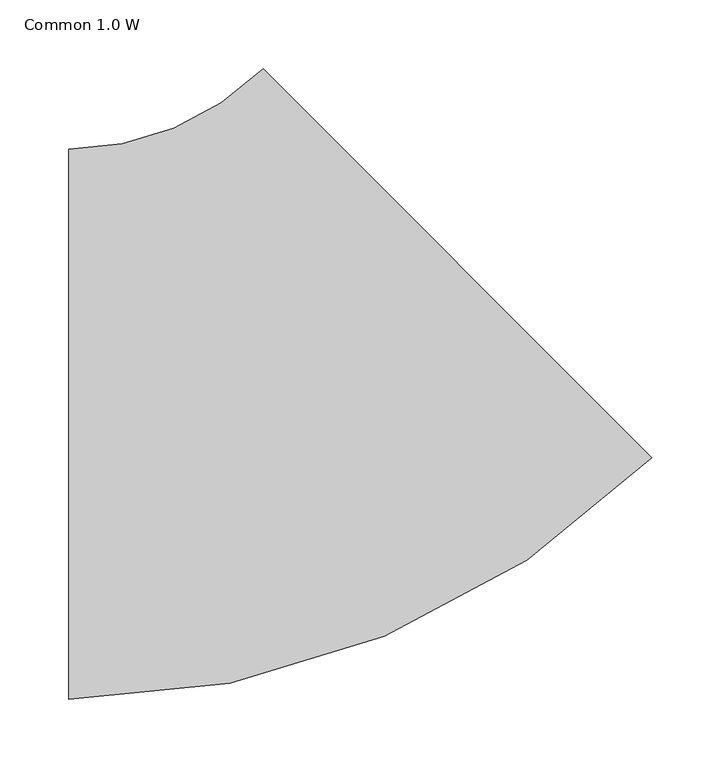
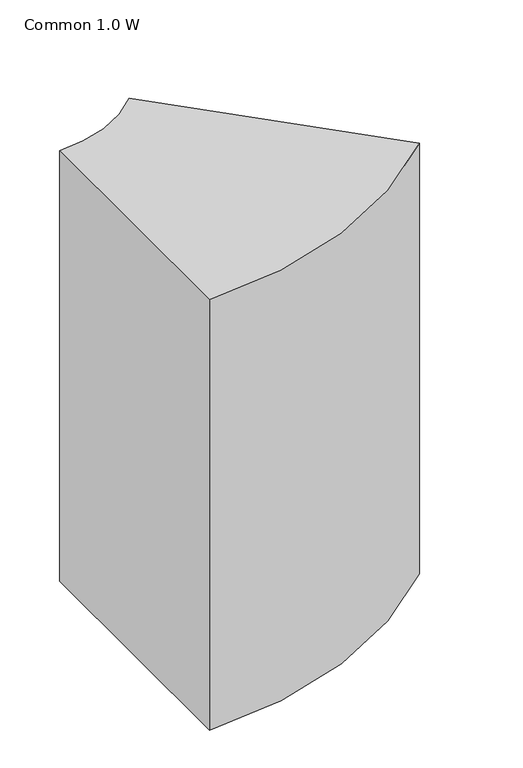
"""IFC4 building model written with IfcOpenShell, lengths in millimetres: duct fitting geometry, 011_角型エルボ - 半径 : Common 1.0 W."""

from ifc_helpers import new_model, si_unit, point, frame, frame_2d, origin, place, context, project, spatial, polyline, circle_curve, trimmed, segment, composite_curve, outline, extrude, source, transform, mapped, element, save


def common_1_0_w_ad55b739(model_context):
    return source(origin(), model_context, "Body", "SweptSolid", [
        extrude(outline(composite_curve([segment(trimmed(circle_curve(frame_2d((-165.6854249, 400.0)), 600.0), [point((258.5786438, -24.2640687))], [point((-165.6854249, -200.0))], False, "CARTESIAN"), True, "CONTINUOUS"), segment(polyline([(-165.6854249, -200.0), (-165.6854249, 200.0)]), True, "CONTINUOUS"), segment(trimmed(circle_curve(frame_2d((-165.6854249, 400.0)), 200.0), [point((-165.6854249, 200.0))], [point((-24.2640687, 258.5786438))], True, "CARTESIAN"), True, "CONTINUOUS"), segment(polyline([(-24.2640687, 258.5786438), (258.5786438, -24.2640687)]), True, "CONTINUOUS")], self_intersect=False)), frame((0.0, 0.0, -350.0), z_axis=(0.0, 0.0, 1.0), x_axis=(1.0, 0.0, 0.0)), (0.0, 0.0, 1.0), 700.0),
    ])


if __name__ == "__main__":
    model = new_model("IFC4")
    model_context = context("Model", 3, world=origin())
    ifc_project = project(units=[si_unit("LENGTHUNIT", "METRE", prefix="MILLI")], contexts=[model_context])
    site = spatial("IfcSite", under=ifc_project)
    building = spatial("IfcBuilding", under=site)
    placement = place(None, origin())
    common_1_0_w_shape = common_1_0_w_ad55b739(model_context)
    element("IfcDuctFitting", 1, ObjectType="011_角型エルボ - 半径 : Common 1.0 W", at=placement, inside=building, context=model_context, shape_type="MappedRepresentation", body=[
        mapped(common_1_0_w_shape, transform((0.0, 0.0, 0.0), x_axis=(1.0, 0.0, 0.0), y_axis=(0.0, 1.0, 0.0), z_axis=(0.0, 0.0, 1.0))),
    ])
    save(model, "model.ifc")
